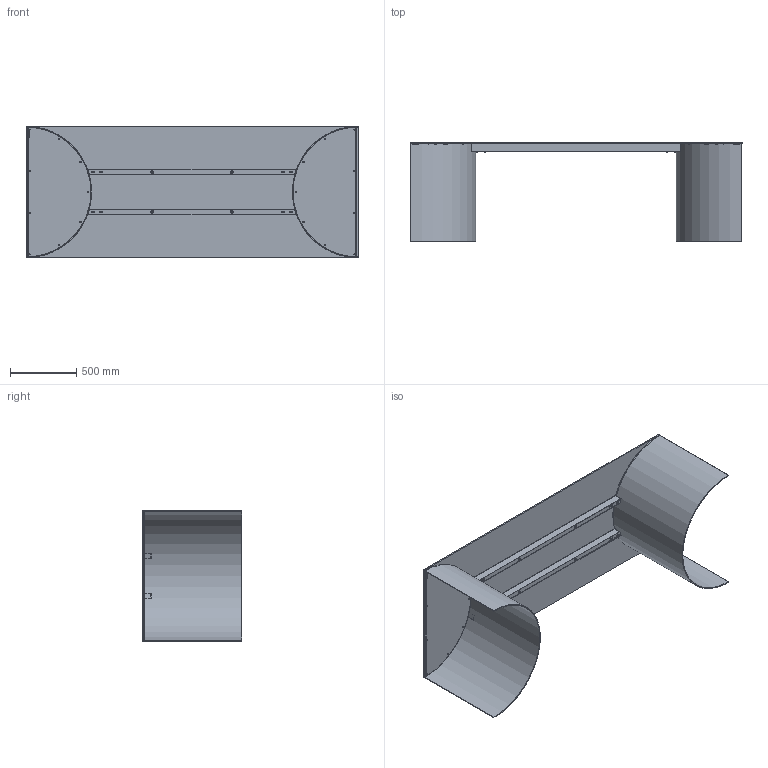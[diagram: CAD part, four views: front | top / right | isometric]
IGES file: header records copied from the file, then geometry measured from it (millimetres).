
Start section: SolidWorks IGES file using analytic representation for surfaces
Global section: file name: \\UTENTI\Dati Utenti\Tecnico\DC\2D - 3D per sito\3D\DeCastelli-3D-Plateaux of mirror 250.igs; native system: SolidWorks 2022; preprocessor: SolidWorks 2022; author: Silviad; date: 240711.172617; units: millimetre
Bounding box: 2500 x 750 x 990 mm (x, y, z)
Surface area: 11193766.7 mm2 (no closed solid volume)
Topology: 0 solids, 0 shells, 164 faces, 2899 edges, 2899 vertices
Faces by surface type: bspline 110, revolution 54
